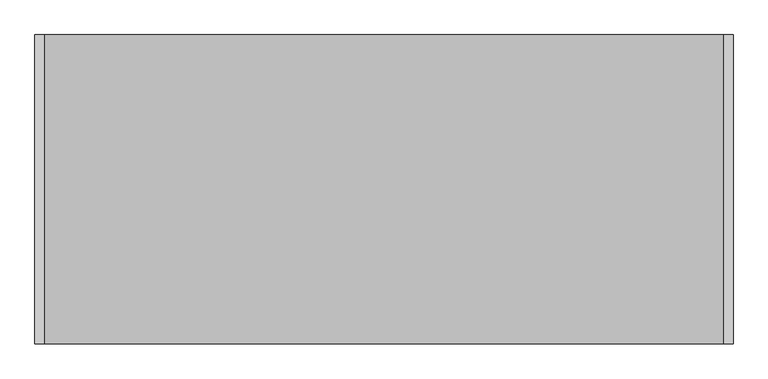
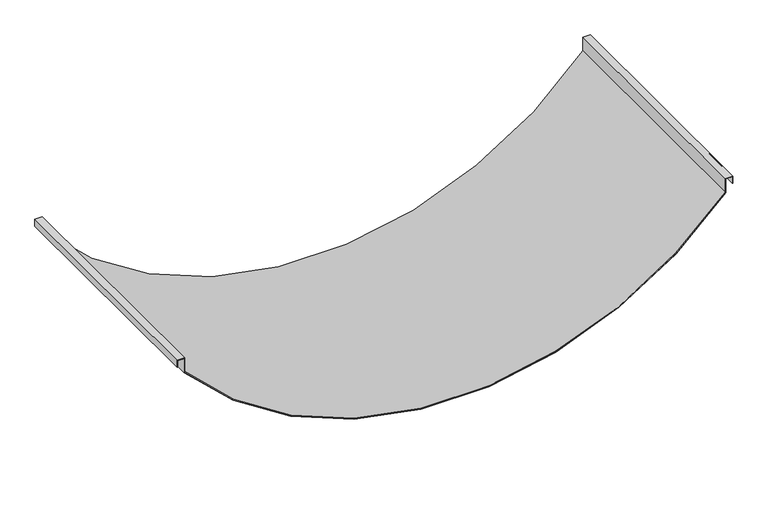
"""IFC4 building model written with IfcOpenShell, lengths in millimetres: proxy geometry, durlum_S5_DOMUS_panel : durlum_S5_DOMUS_panel_wall_width_cut."""

from ifc_helpers import new_model, si_unit, point, frame, frame_2d, origin, place, context, project, spatial, polyline, circle_curve, trimmed, segment, composite_curve, outline, extrude, source, transform, mapped, element, save


def generic_models_bd86510f(model_context):
    return source(origin(), model_context, "Body", "SweptSolid", [
        extrude(outline(composite_curve([segment(polyline([(0.3747558, 548.5), (1.8972643, 548.5)]), True, "CONTINUOUS"), segment(trimmed(circle_curve(frame_2d((478.9005, 0.0)), 726.9005), [point((1.8972643, 548.5))], [point((1.8972643, -548.5))], True, "CARTESIAN"), True, "CONTINUOUS"), segment(polyline([(1.8972643, -548.5), (0.3747558, -548.5)]), True, "CONTINUOUS"), segment(trimmed(circle_curve(frame_2d((478.9005, 0.0)), 727.9005), [point((0.3747558, -548.5))], [point((0.3747558, 548.5))], False, "CARTESIAN"), True, "CONTINUOUS")], self_intersect=False)), frame((0.0, -249.75, 0.0), z_axis=(0.0, 1.0, 0.0), x_axis=(0.0, 0.0, 1.0)), (0.0, 0.0, 1.0), 499.5),
        extrude(outline(polyline([(30.0, -549.5), (0.0, -549.5), (0.0, -548.5), (31.0, -548.5), (31.0, -563.5), (16.0, -563.5), (16.0, -562.5), (30.0, -562.5), (30.0, -549.5)])), frame((0.0, -249.75, 0.0), z_axis=(0.0, 1.0, 0.0), x_axis=(0.0, 0.0, 1.0)), (0.0, 0.0, 1.0), 499.5),
        extrude(outline(polyline([(30.0, 549.5), (30.0, 562.5), (16.0, 562.5), (16.0, 563.5), (31.0, 563.5), (31.0, 548.5), (0.0, 548.5), (0.0, 549.5), (30.0, 549.5)])), frame((0.0, -249.75, 0.0), z_axis=(0.0, 1.0, 0.0), x_axis=(0.0, 0.0, 1.0)), (0.0, 0.0, 1.0), 499.5),
        extrude(outline(composite_curve([segment(trimmed(circle_curve(frame_2d((478.9005, 0.0)), 728.9005), [point((0.0, -549.5))], [point((0.0, 549.5))], False, "CARTESIAN"), True, "CONTINUOUS"), segment(polyline([(0.0, 549.5), (1.5234081, 549.5)]), True, "CONTINUOUS"), segment(trimmed(circle_curve(frame_2d((478.9005, 0.0)), 727.9005), [point((1.5234081, 549.5))], [point((1.5234081, -549.5))], True, "CARTESIAN"), True, "CONTINUOUS"), segment(polyline([(1.5234081, -549.5), (0.0, -549.5)]), True, "CONTINUOUS")], self_intersect=False)), frame((0.0, -249.75, 0.0), z_axis=(0.0, 1.0, 0.0), x_axis=(0.0, 0.0, 1.0)), (0.0, 0.0, 1.0), 499.5),
    ])


if __name__ == "__main__":
    model = new_model("IFC4")
    model_context = context("Model", 3, world=origin())
    ifc_project = project(units=[si_unit("LENGTHUNIT", "METRE", prefix="MILLI")], contexts=[model_context])
    site = spatial("IfcSite", under=ifc_project)
    building = spatial("IfcBuilding", under=site)
    placement = place(None, origin())
    generic_models_shape = generic_models_bd86510f(model_context)
    element("IfcBuildingElementProxy", 1, Name="durlum_S5_DOMUS_panel : durlum_S5_DOMUS_panel_wall_width_cut", ObjectType="durlum_S5_DOMUS_panel : durlum_S5_DOMUS_panel_wall_width_cut", at=placement, inside=building, context=model_context, shape_type="MappedRepresentation", body=[
        mapped(generic_models_shape, transform((0.0, 0.0, 0.0), x_axis=(1.0, 0.0, 0.0), y_axis=(0.0, 1.0, 0.0), z_axis=(0.0, 0.0, 1.0))),
    ])
    save(model, "model.ifc")
